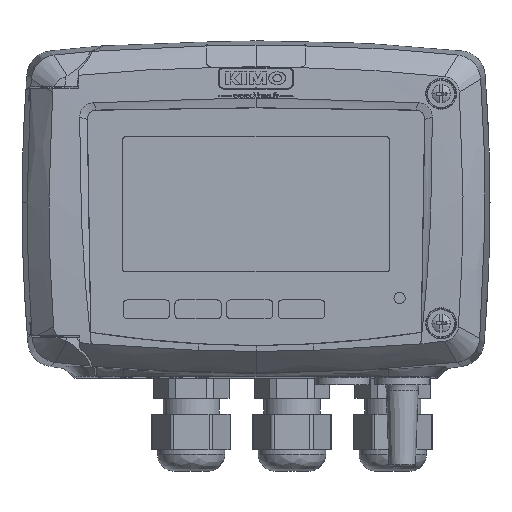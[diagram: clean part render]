
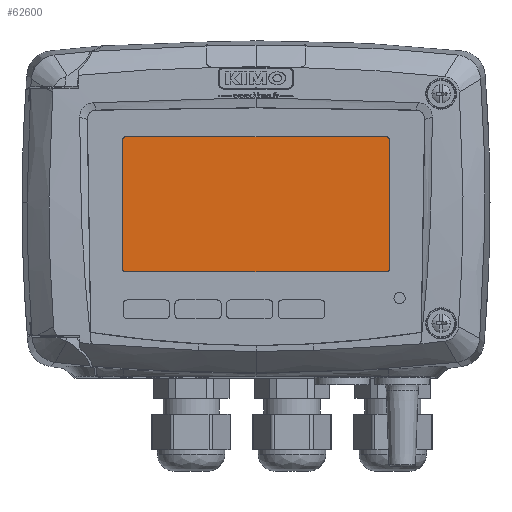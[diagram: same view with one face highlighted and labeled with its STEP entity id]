
A CAD part, top view. The second image highlights one B-rep face of the part: STEP entity #62600.
In plain terms, the highlighted planar face has unit normal (0, 0, 1).
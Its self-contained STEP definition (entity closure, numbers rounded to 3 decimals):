
#1002 = DIRECTION ( 'NONE',  ( 0., 1., 0. ) ) ;
#3126 = DIRECTION ( 'NONE',  ( 0., -1., 0. ) ) ;
#4895 = EDGE_CURVE ( 'NONE', #61461, #56413, #103751, .T. ) ;
#5566 = ORIENTED_EDGE ( 'NONE', *, *, #97552, .F. ) ;
#5904 = VERTEX_POINT ( 'NONE', #24107 ) ;
#8971 = VECTOR ( 'NONE', #104750, 1000. ) ;
#9984 = EDGE_CURVE ( 'NONE', #52560, #5904, #90316, .T. ) ;
#10140 = AXIS2_PLACEMENT_3D ( 'NONE', #10161, #58912, #3126 ) ;
#10161 = CARTESIAN_POINT ( 'NONE',  ( -35., -18., 38.095 ) ) ;
#10207 = DIRECTION ( 'NONE',  ( 0., 0., 1. ) ) ;
#11889 = LINE ( 'NONE', #28254, #38184 ) ;
#13324 = CIRCLE ( 'NONE', #36959, 0.5 ) ;
#14054 = ORIENTED_EDGE ( 'NONE', *, *, #89951, .T. ) ;
#15575 = CARTESIAN_POINT ( 'NONE',  ( -35., -18.5, 38.095 ) ) ;
#15948 = CARTESIAN_POINT ( 'NONE',  ( 35., 17., 38.095 ) ) ;
#17849 = EDGE_CURVE ( 'NONE', #41699, #82714, #43110, .T. ) ;
#21119 = CARTESIAN_POINT ( 'NONE',  ( 35., -18., 38.095 ) ) ;
#24107 = CARTESIAN_POINT ( 'NONE',  ( 35., -18.5, 38.095 ) ) ;
#25350 = ORIENTED_EDGE ( 'NONE', *, *, #4895, .T. ) ;
#27154 = CARTESIAN_POINT ( 'NONE',  ( -35.5, 17., 38.095 ) ) ;
#28254 = CARTESIAN_POINT ( 'NONE',  ( 35.5, -18., 38.095 ) ) ;
#28888 = CARTESIAN_POINT ( 'NONE',  ( 35.5, -18., 38.095 ) ) ;
#30468 = CARTESIAN_POINT ( 'NONE',  ( -35.5, -18., 38.095 ) ) ;
#30816 = ORIENTED_EDGE ( 'NONE', *, *, #53463, .F. ) ;
#32938 = FACE_OUTER_BOUND ( 'NONE', #78547, .T. ) ;
#35348 = CARTESIAN_POINT ( 'NONE',  ( -35., -18.5, 38.095 ) ) ;
#35897 = VECTOR ( 'NONE', #75460, 1000. ) ;
#36195 = ORIENTED_EDGE ( 'NONE', *, *, #17849, .T. ) ;
#36959 = AXIS2_PLACEMENT_3D ( 'NONE', #21119, #62447, #53462 ) ;
#37356 = DIRECTION ( 'NONE',  ( -1., 0., 0. ) ) ;
#37483 = DIRECTION ( 'NONE',  ( 0., 0., -1. ) ) ;
#38184 = VECTOR ( 'NONE', #73315, 1000. ) ;
#40700 = EDGE_CURVE ( 'NONE', #62185, #5904, #13324, .T. ) ;
#40756 = EDGE_CURVE ( 'NONE', #41699, #56413, #87797, .T. ) ;
#41699 = VERTEX_POINT ( 'NONE', #72800 ) ;
#43110 = LINE ( 'NONE', #27154, #35897 ) ;
#47321 = AXIS2_PLACEMENT_3D ( 'NONE', #15948, #55738, #1002 ) ;
#49910 = PLANE ( 'NONE',  #59281 ) ;
#52560 = VERTEX_POINT ( 'NONE', #35348 ) ;
#53462 = DIRECTION ( 'NONE',  ( 1., 0., 0. ) ) ;
#53463 = EDGE_CURVE ( 'NONE', #52560, #82714, #72665, .T. ) ;
#55738 = DIRECTION ( 'NONE',  ( 0., 0., -1. ) ) ;
#56413 = VERTEX_POINT ( 'NONE', #88908 ) ;
#58912 = DIRECTION ( 'NONE',  ( 0., 0., -1. ) ) ;
#59281 = AXIS2_PLACEMENT_3D ( 'NONE', #97768, #10207, #89233 ) ;
#61461 = VERTEX_POINT ( 'NONE', #102199 ) ;
#62185 = VERTEX_POINT ( 'NONE', #28888 ) ;
#62447 = DIRECTION ( 'NONE',  ( 0., 0., -1. ) ) ;
#62600 = ADVANCED_FACE ( 'NONE', ( #32938 ), #49910, .T. ) ;
#64333 = VECTOR ( 'NONE', #37356, 1000. ) ;
#64406 = DIRECTION ( 'NONE',  ( -1., 0., 0. ) ) ;
#65344 = VERTEX_POINT ( 'NONE', #74819 ) ;
#67075 = ORIENTED_EDGE ( 'NONE', *, *, #40700, .F. ) ;
#70252 = CARTESIAN_POINT ( 'NONE',  ( 35., 17.5, 38.095 ) ) ;
#72665 = CIRCLE ( 'NONE', #10140, 0.5 ) ;
#72800 = CARTESIAN_POINT ( 'NONE',  ( -35.5, 17., 38.095 ) ) ;
#73315 = DIRECTION ( 'NONE',  ( 0., 1., 0. ) ) ;
#74819 = CARTESIAN_POINT ( 'NONE',  ( 35.5, 17., 38.095 ) ) ;
#75460 = DIRECTION ( 'NONE',  ( 0., -1., 0. ) ) ;
#78547 = EDGE_LOOP ( 'NONE', ( #5566, #25350, #85326, #36195, #30816, #92580, #67075, #14054 ) ) ;
#82714 = VERTEX_POINT ( 'NONE', #30468 ) ;
#85326 = ORIENTED_EDGE ( 'NONE', *, *, #40756, .F. ) ;
#87797 = CIRCLE ( 'NONE', #101458, 0.5 ) ;
#88908 = CARTESIAN_POINT ( 'NONE',  ( -35., 17.5, 38.095 ) ) ;
#89233 = DIRECTION ( 'NONE',  ( 1., 0., 0. ) ) ;
#89951 = EDGE_CURVE ( 'NONE', #62185, #65344, #11889, .T. ) ;
#90316 = LINE ( 'NONE', #15575, #8971 ) ;
#91341 = CIRCLE ( 'NONE', #47321, 0.5 ) ;
#92580 = ORIENTED_EDGE ( 'NONE', *, *, #9984, .T. ) ;
#97552 = EDGE_CURVE ( 'NONE', #61461, #65344, #91341, .T. ) ;
#97768 = CARTESIAN_POINT ( 'NONE',  ( 0., 0., 38.095 ) ) ;
#101458 = AXIS2_PLACEMENT_3D ( 'NONE', #102345, #37483, #64406 ) ;
#102199 = CARTESIAN_POINT ( 'NONE',  ( 35., 17.5, 38.095 ) ) ;
#102345 = CARTESIAN_POINT ( 'NONE',  ( -35., 17., 38.095 ) ) ;
#103751 = LINE ( 'NONE', #70252, #64333 ) ;
#104750 = DIRECTION ( 'NONE',  ( 1., 0., 0. ) ) ;
